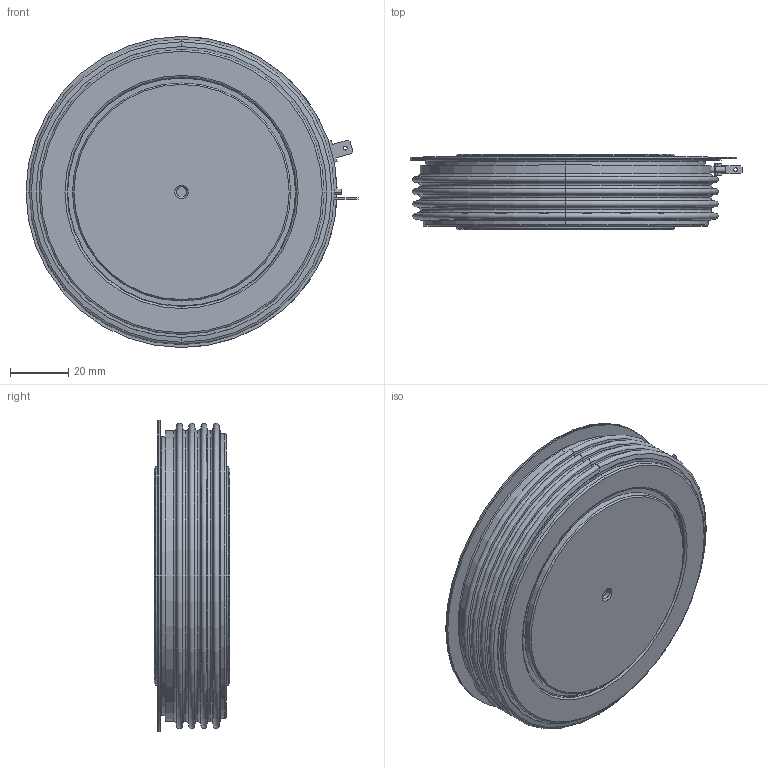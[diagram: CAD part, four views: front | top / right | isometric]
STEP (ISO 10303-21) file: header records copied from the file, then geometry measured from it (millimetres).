
FILE_DESCRIPTION (( 'STEP AP214' ), '1' );
FILE_NAME ('PT73.STEP', '2021-04-09T06:08:31', ( '' ), ( '' ), 'SwSTEP 2.0', 'SolidWorks 2018', '' );
FILE_SCHEMA (( 'AUTOMOTIVE_DESIGN' ));
Length unit declared in the file: millimetre
Products named in the file (1): PT73
Bounding box: 114.18 x 26 x 107 mm (x, y, z)
Volume: 139705.7 mm3; surface area: 56680.3 mm2
Topology: 7 solids, 7 shells, 174 faces, 370 edges, 220 vertices
Faces by surface type: cylinder 54, torus 48, plane 48, cone 24
Entity records: 6817 total; most frequent: DIRECTION 936, CARTESIAN_POINT 864, ORIENTED_EDGE 740, AXIS2_PLACEMENT_3D 397, EDGE_CURVE 370, CIRCLE 222, VERTEX_POINT 220, EDGE_LOOP 200
